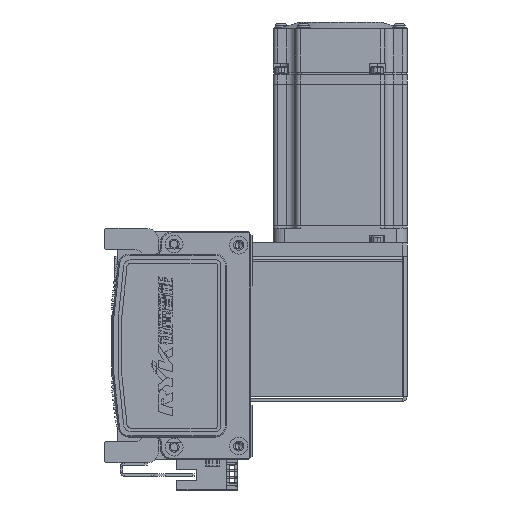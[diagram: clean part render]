
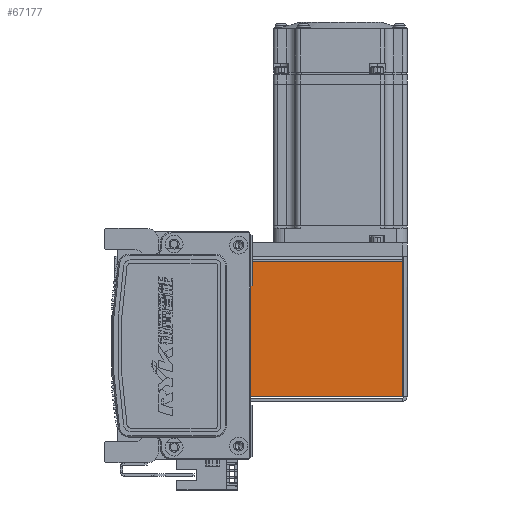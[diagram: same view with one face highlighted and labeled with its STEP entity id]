
A CAD part, left-side view. The second image highlights one B-rep face of the part: STEP entity #67177.
In plain terms, the highlighted planar face has unit normal (-1, 0, 0) as drawn and (0, 0, 1) by its records, which use the part's own axes.
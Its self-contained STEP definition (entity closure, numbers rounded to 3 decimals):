
#610 = DIRECTION ( 'NONE',  ( 0., 1., 0. ) ) ;
#3250 = DIRECTION ( 'NONE',  ( -1., 0., 0. ) ) ;
#4257 = LINE ( 'NONE', #65580, #47111 ) ;
#6186 = ORIENTED_EDGE ( 'NONE', *, *, #15787, .F. ) ;
#9384 = LINE ( 'NONE', #28981, #55782 ) ;
#10486 = CARTESIAN_POINT ( 'NONE',  ( 30.263, 0.737, 35. ) ) ;
#15225 = DIRECTION ( 'NONE',  ( -1., 0., 0. ) ) ;
#15787 = EDGE_CURVE ( 'NONE', #32013, #50964, #62510, .T. ) ;
#15798 = CARTESIAN_POINT ( 'NONE',  ( -30.293, 0., 35. ) ) ;
#25073 = VERTEX_POINT ( 'NONE', #39103 ) ;
#25667 = ORIENTED_EDGE ( 'NONE', *, *, #63756, .T. ) ;
#25904 = EDGE_CURVE ( 'NONE', #32013, #49228, #9384, .T. ) ;
#26287 = FACE_OUTER_BOUND ( 'NONE', #51640, .T. ) ;
#28981 = CARTESIAN_POINT ( 'NONE',  ( 30.263, 0.737, 35. ) ) ;
#29921 = ORIENTED_EDGE ( 'NONE', *, *, #66992, .F. ) ;
#29926 = DIRECTION ( 'NONE',  ( -1., 0., 0. ) ) ;
#32013 = VERTEX_POINT ( 'NONE', #10486 ) ;
#32757 = VECTOR ( 'NONE', #3250, 1000. ) ;
#33287 = VECTOR ( 'NONE', #44163, 1000. ) ;
#39103 = CARTESIAN_POINT ( 'NONE',  ( -30.293, 72.5, 35. ) ) ;
#44163 = DIRECTION ( 'NONE',  ( 0., 1., 0. ) ) ;
#44657 = ORIENTED_EDGE ( 'NONE', *, *, #25904, .T. ) ;
#46059 = DIRECTION ( 'NONE',  ( 0., 0., -1. ) ) ;
#47111 = VECTOR ( 'NONE', #15225, 1000. ) ;
#49228 = VERTEX_POINT ( 'NONE', #68231 ) ;
#50964 = VERTEX_POINT ( 'NONE', #64495 ) ;
#51640 = EDGE_LOOP ( 'NONE', ( #44657, #25667, #29921, #6186 ) ) ;
#54787 = AXIS2_PLACEMENT_3D ( 'NONE', #68335, #46059, #29926 ) ;
#55782 = VECTOR ( 'NONE', #610, 1000. ) ;
#62510 = LINE ( 'NONE', #71270, #32757 ) ;
#63756 = EDGE_CURVE ( 'NONE', #49228, #25073, #4257, .T. ) ;
#64495 = CARTESIAN_POINT ( 'NONE',  ( -30.293, 0.737, 35. ) ) ;
#65580 = CARTESIAN_POINT ( 'NONE',  ( 0., 72.5, 35. ) ) ;
#66992 = EDGE_CURVE ( 'NONE', #50964, #25073, #67405, .T. ) ;
#67177 = ADVANCED_FACE ( 'NONE', ( #26287 ), #68587, .F. ) ;
#67405 = LINE ( 'NONE', #15798, #33287 ) ;
#68231 = CARTESIAN_POINT ( 'NONE',  ( 30.263, 72.5, 35. ) ) ;
#68335 = CARTESIAN_POINT ( 'NONE',  ( 0., 0., 35. ) ) ;
#68587 = PLANE ( 'NONE',  #54787 ) ;
#71270 = CARTESIAN_POINT ( 'NONE',  ( -32.5, 0.737, 35. ) ) ;
